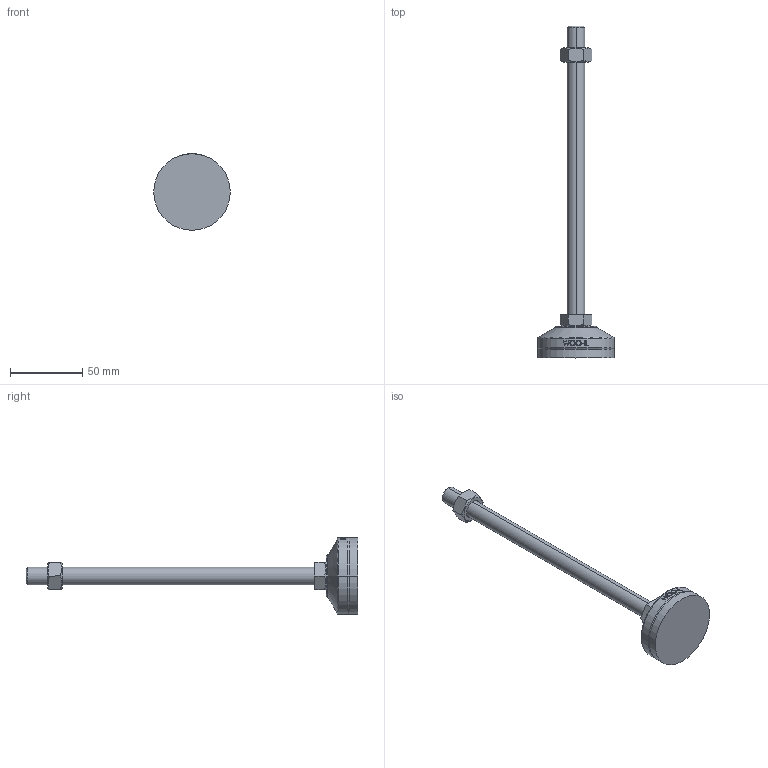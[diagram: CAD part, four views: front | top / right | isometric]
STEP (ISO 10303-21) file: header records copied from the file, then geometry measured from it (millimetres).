
FILE_DESCRIPTION (( 'STEP AP214' ), '1' );
FILE_NAME ('MFR53-M12-200.step', '2021-01-13T05:35:09', ( '' ), ( '' ), 'SwSTEP 2.0', 'SolidWorks 2019', '' );
FILE_SCHEMA (( 'AUTOMOTIVE_DESIGN' ));
Length unit declared in the file: millimetre
Products named in the file (2): MFR53-M12-200
Bounding box: 53 x 230 x 53 mm (x, y, z)
Volume: 67985.5 mm3; surface area: 21405.1 mm2
Topology: 4 solids, 4 shells, 103 faces, 235 edges, 150 vertices
Faces by surface type: plane 49, cylinder 18, bspline 16, cone 14, torus 6
Entity records: 4309 total; most frequent: CARTESIAN_POINT 2036, ORIENTED_EDGE 470, DIRECTION 417, EDGE_CURVE 235, AXIS2_PLACEMENT_3D 159, VERTEX_POINT 150, EDGE_LOOP 115, ADVANCED_FACE 103
